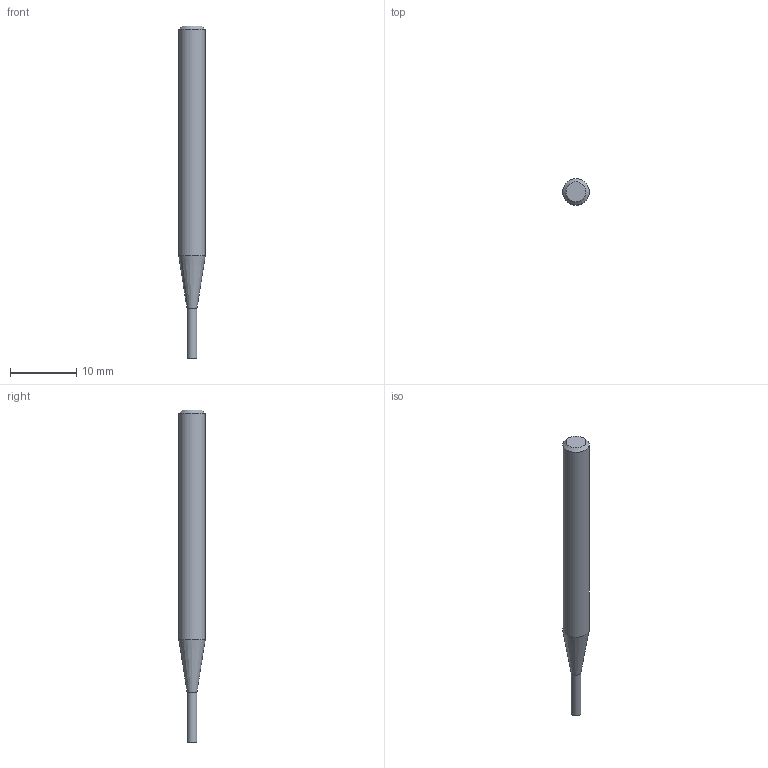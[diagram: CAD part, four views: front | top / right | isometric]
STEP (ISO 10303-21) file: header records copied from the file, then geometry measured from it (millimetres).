
FILE_DESCRIPTION((''),'2;1');
FILE_NAME('C:\Users\nsx150\Desktop\RSE230_20210427\01-00644-01501 RSE230 D1_5X7_5.step','2021-05-07T14:53:24',(''),(''),'STEP Write','Mastercam 2021 ... CNC Software, Inc.','');
FILE_SCHEMA(('AUTOMOTIVE_DESIGN'));
Length unit declared in the file: millimetre
Products named in the file (1): None
Bounding box: 4 x 4 x 50 mm (x, y, z)
Volume: 496.8 mm3; surface area: 553.1 mm2
Topology: 2 solids, 2 shells, 8 faces, 10 edges, 6 vertices
Faces by surface type: plane 4, cylinder 2, cone 2
Full cylindrical faces by diameter (mm): 1.5 x1, 4 x1
Entity records: 190 total; most frequent: DIRECTION 32, CARTESIAN_POINT 22, AXIS2_PLACEMENT_3D 16, ORIENTED_EDGE 12, EDGE_LOOP 12, STYLED_ITEM 11, ADVANCED_FACE 8, VERTEX_POINT 6
